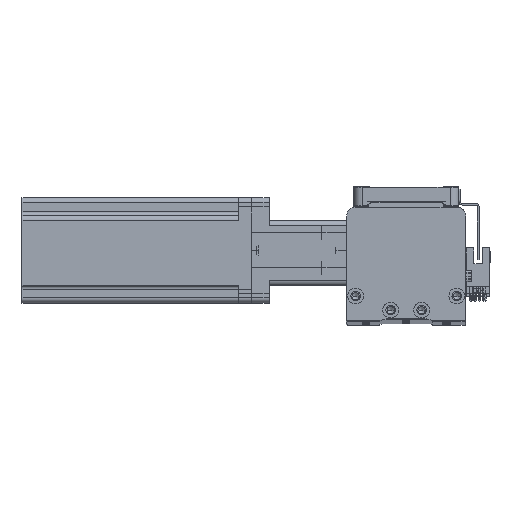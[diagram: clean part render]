
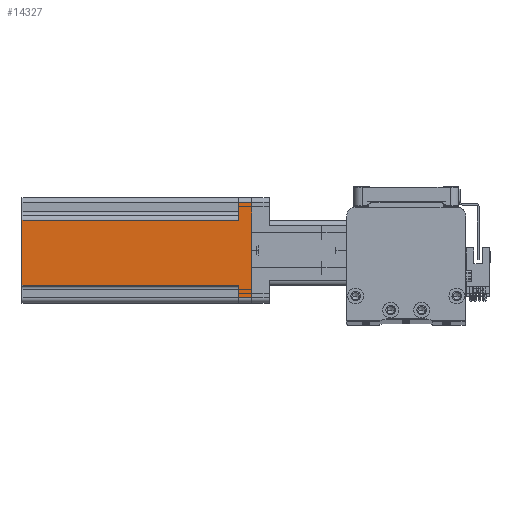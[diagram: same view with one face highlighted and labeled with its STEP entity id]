
A CAD part, top view. The second image highlights one B-rep face of the part: STEP entity #14327.
In plain terms, the highlighted planar face has unit normal (0, 0, 1) as drawn and (-1, 0, 0) by its records, which use the part's own axes.
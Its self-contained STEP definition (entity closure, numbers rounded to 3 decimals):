
#43 = DIRECTION ( 'NONE',  ( 0., -1., 0. ) ) ;
#531 = CARTESIAN_POINT ( 'NONE',  ( -30., -17., 130.7 ) ) ;
#985 = LINE ( 'NONE', #17247, #11191 ) ;
#1033 = PLANE ( 'NONE',  #39224 ) ;
#1368 = DIRECTION ( 'NONE',  ( 0., 0., 1. ) ) ;
#1507 = VERTEX_POINT ( 'NONE', #30655 ) ;
#2113 = VECTOR ( 'NONE', #43822, 1000. ) ;
#2253 = VECTOR ( 'NONE', #23394, 1000. ) ;
#3181 = EDGE_CURVE ( 'NONE', #29675, #29588, #41318, .T. ) ;
#3322 = LINE ( 'NONE', #5547, #2113 ) ;
#5104 = DIRECTION ( 'NONE',  ( 0., 0., 1. ) ) ;
#5285 = EDGE_CURVE ( 'NONE', #42989, #29229, #9952, .T. ) ;
#5547 = CARTESIAN_POINT ( 'NONE',  ( -30., 27., 130.7 ) ) ;
#6709 = CARTESIAN_POINT ( 'NONE',  ( -30., -27., 0. ) ) ;
#7100 = VERTEX_POINT ( 'NONE', #16817 ) ;
#9952 = LINE ( 'NONE', #38545, #40426 ) ;
#11191 = VECTOR ( 'NONE', #40055, 1000. ) ;
#13738 = ORIENTED_EDGE ( 'NONE', *, *, #3181, .T. ) ;
#14201 = ORIENTED_EDGE ( 'NONE', *, *, #19705, .T. ) ;
#14327 = ADVANCED_FACE ( 'NONE', ( #42534 ), #1033, .F. ) ;
#14343 = EDGE_CURVE ( 'NONE', #29675, #42989, #27663, .T. ) ;
#15712 = DIRECTION ( 'NONE',  ( 0., -1., 0. ) ) ;
#15981 = CARTESIAN_POINT ( 'NONE',  ( -30., 20., 7.5 ) ) ;
#16498 = CARTESIAN_POINT ( 'NONE',  ( -30., -30., 130.7 ) ) ;
#16674 = CARTESIAN_POINT ( 'NONE',  ( -30., 20., 7.5 ) ) ;
#16719 = ORIENTED_EDGE ( 'NONE', *, *, #5285, .F. ) ;
#16817 = CARTESIAN_POINT ( 'NONE',  ( -30., -17., 7.5 ) ) ;
#17247 = CARTESIAN_POINT ( 'NONE',  ( -30., -30., 0. ) ) ;
#17475 = VECTOR ( 'NONE', #1368, 1000. ) ;
#18495 = DIRECTION ( 'NONE',  ( 0., 1., 0. ) ) ;
#18955 = VECTOR ( 'NONE', #5104, 1000. ) ;
#19705 = EDGE_CURVE ( 'NONE', #7100, #29229, #22660, .T. ) ;
#20328 = DIRECTION ( 'NONE',  ( 0., 0., -1. ) ) ;
#20367 = CARTESIAN_POINT ( 'NONE',  ( -30., -27., 130.7 ) ) ;
#20708 = VECTOR ( 'NONE', #43, 1000. ) ;
#21299 = EDGE_LOOP ( 'NONE', ( #44364, #14201, #16719, #47826, #13738, #36184, #49508, #30320 ) ) ;
#21320 = EDGE_CURVE ( 'NONE', #7100, #1507, #42183, .T. ) ;
#22660 = LINE ( 'NONE', #46248, #2253 ) ;
#23394 = DIRECTION ( 'NONE',  ( 0., 0., 1. ) ) ;
#26685 = CARTESIAN_POINT ( 'NONE',  ( -30., 27., 7.5 ) ) ;
#27594 = VERTEX_POINT ( 'NONE', #46714 ) ;
#27663 = LINE ( 'NONE', #16674, #17475 ) ;
#29114 = LINE ( 'NONE', #20367, #18955 ) ;
#29229 = VERTEX_POINT ( 'NONE', #531 ) ;
#29588 = VERTEX_POINT ( 'NONE', #26685 ) ;
#29675 = VERTEX_POINT ( 'NONE', #15981 ) ;
#29988 = VECTOR ( 'NONE', #18495, 1000. ) ;
#30320 = ORIENTED_EDGE ( 'NONE', *, *, #43388, .T. ) ;
#30655 = CARTESIAN_POINT ( 'NONE',  ( -30., -27., 7.5 ) ) ;
#30732 = CARTESIAN_POINT ( 'NONE',  ( -30., -30., 7.5 ) ) ;
#31396 = EDGE_CURVE ( 'NONE', #27594, #41204, #985, .T. ) ;
#36184 = ORIENTED_EDGE ( 'NONE', *, *, #49390, .T. ) ;
#38545 = CARTESIAN_POINT ( 'NONE',  ( -30., -30., 130.7 ) ) ;
#39224 = AXIS2_PLACEMENT_3D ( 'NONE', #16498, #43184, #20328 ) ;
#40055 = DIRECTION ( 'NONE',  ( 0., -1., 0. ) ) ;
#40426 = VECTOR ( 'NONE', #15712, 1000. ) ;
#41204 = VERTEX_POINT ( 'NONE', #6709 ) ;
#41318 = LINE ( 'NONE', #45206, #29988 ) ;
#42183 = LINE ( 'NONE', #30732, #20708 ) ;
#42534 = FACE_OUTER_BOUND ( 'NONE', #21299, .T. ) ;
#42989 = VERTEX_POINT ( 'NONE', #43583 ) ;
#43184 = DIRECTION ( 'NONE',  ( 1., 0., 0. ) ) ;
#43388 = EDGE_CURVE ( 'NONE', #41204, #1507, #29114, .T. ) ;
#43583 = CARTESIAN_POINT ( 'NONE',  ( -30., 20., 130.7 ) ) ;
#43822 = DIRECTION ( 'NONE',  ( 0., 0., -1. ) ) ;
#44364 = ORIENTED_EDGE ( 'NONE', *, *, #21320, .F. ) ;
#45206 = CARTESIAN_POINT ( 'NONE',  ( -30., 30., 7.5 ) ) ;
#46248 = CARTESIAN_POINT ( 'NONE',  ( -30., -17., 130.7 ) ) ;
#46714 = CARTESIAN_POINT ( 'NONE',  ( -30., 27., 0. ) ) ;
#47826 = ORIENTED_EDGE ( 'NONE', *, *, #14343, .F. ) ;
#49390 = EDGE_CURVE ( 'NONE', #29588, #27594, #3322, .T. ) ;
#49508 = ORIENTED_EDGE ( 'NONE', *, *, #31396, .T. ) ;
